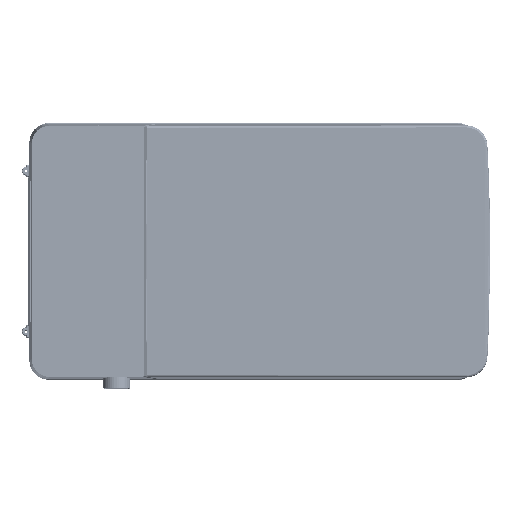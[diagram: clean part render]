
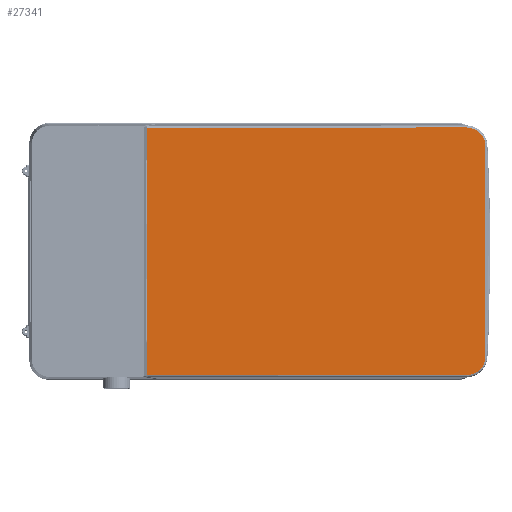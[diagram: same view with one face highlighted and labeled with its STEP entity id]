
A CAD part, top view. The second image highlights one B-rep face of the part: STEP entity #27341.
In plain terms, the highlighted planar face has unit normal (0.015, 0, 1).
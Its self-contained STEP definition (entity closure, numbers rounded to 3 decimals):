
#17551=FACE_OUTER_BOUND('',#53949,.T.);
#27341=ADVANCED_FACE('',(#17551),#33528,.T.);
#33528=PLANE('',#182632);
#38221=B_SPLINE_CURVE_WITH_KNOTS('',3,(#323891,#323892,#323893,#323894,#323895,
#323896,#323897,#323898),.UNSPECIFIED.,.F.,.F.,(4,2,2,4),(0.,0.25,0.5,1.),
 .UNSPECIFIED.);
#38223=B_SPLINE_CURVE_WITH_KNOTS('',3,(#323954,#323955,#323956,#323957),
 .UNSPECIFIED.,.F.,.F.,(4,4),(0.,1.),.UNSPECIFIED.);
#38225=B_SPLINE_CURVE_WITH_KNOTS('',3,(#323995,#323996,#323997,#323998,#323999,
#324000,#324001,#324002),.UNSPECIFIED.,.F.,.F.,(4,2,2,4),(0.,0.25,0.5,1.),
 .UNSPECIFIED.);
#38239=B_SPLINE_CURVE_WITH_KNOTS('',3,(#324283,#324284,#324285,#324286,#324287,
#324288,#324289,#324290,#324291,#324292,#324293,#324294,#324295,#324296),
 .UNSPECIFIED.,.F.,.F.,(4,2,2,2,2,2,4),(0.,0.003,0.005,
0.017,0.068,0.272,1.),.UNSPECIFIED.);
#38242=B_SPLINE_CURVE_WITH_KNOTS('',3,(#324324,#324325,#324326,#324327,#324328,
#324329,#324330,#324331,#324332,#324333,#324334,#324335),.UNSPECIFIED.,.F.,
 .F.,(4,2,2,2,2,4),(0.,0.013,0.064,0.267,
0.995,1.),.UNSPECIFIED.);
#38243=B_SPLINE_CURVE_WITH_KNOTS('',1,(#324337,#324338),.UNSPECIFIED.,.F.,
 .F.,(2,2),(0.,1.),.UNSPECIFIED.);
#53949=EDGE_LOOP('',(#89152,#89153,#89154,#89155,#89156,#89157));
#89152=ORIENTED_EDGE('',*,*,#142105,.T.);
#89153=ORIENTED_EDGE('',*,*,#142106,.T.);
#89154=ORIENTED_EDGE('',*,*,#142102,.T.);
#89155=ORIENTED_EDGE('',*,*,#142025,.T.);
#89156=ORIENTED_EDGE('',*,*,#142022,.T.);
#89157=ORIENTED_EDGE('',*,*,#142019,.T.);
#119796=VERTEX_POINT('',#323863);
#119799=VERTEX_POINT('',#323890);
#119800=VERTEX_POINT('',#323948);
#119802=VERTEX_POINT('',#323971);
#119860=VERTEX_POINT('',#324297);
#119862=VERTEX_POINT('',#324336);
#142019=EDGE_CURVE('',#119796,#119799,#38221,.T.);
#142022=EDGE_CURVE('',#119800,#119796,#38223,.T.);
#142025=EDGE_CURVE('',#119802,#119800,#38225,.T.);
#142102=EDGE_CURVE('',#119860,#119802,#38239,.T.);
#142105=EDGE_CURVE('',#119799,#119862,#38242,.T.);
#142106=EDGE_CURVE('',#119862,#119860,#38243,.T.);
#182632=AXIS2_PLACEMENT_3D('',#324339,#214476,#214477);
#214476=DIRECTION('',(0.015,0.,1.));
#214477=DIRECTION('',(1.,0.,-0.015));
#323863=CARTESIAN_POINT('',(743.749,432.145,441.492));
#323890=CARTESIAN_POINT('',(715.543,458.092,441.902));
#323891=CARTESIAN_POINT('',(743.749,432.145,441.492));
#323892=CARTESIAN_POINT('',(743.554,435.691,441.495));
#323893=CARTESIAN_POINT('',(742.649,439.127,441.508));
#323894=CARTESIAN_POINT('',(739.577,445.468,441.552));
#323895=CARTESIAN_POINT('',(737.417,448.33,441.584));
#323896=CARTESIAN_POINT('',(729.627,455.402,441.697));
#323897=CARTESIAN_POINT('',(722.64,458.097,441.799));
#323898=CARTESIAN_POINT('',(715.543,458.092,441.902));
#323948=CARTESIAN_POINT('',(743.749,118.147,441.492));
#323954=CARTESIAN_POINT('',(743.749,118.147,441.492));
#323955=CARTESIAN_POINT('',(749.483,222.721,441.408));
#323956=CARTESIAN_POINT('',(749.483,327.571,441.408));
#323957=CARTESIAN_POINT('',(743.749,432.145,441.492));
#323971=CARTESIAN_POINT('',(715.544,92.2,441.902));
#323995=CARTESIAN_POINT('',(715.544,92.2,441.902));
#323996=CARTESIAN_POINT('',(719.094,92.197,441.851));
#323997=CARTESIAN_POINT('',(722.567,92.842,441.8));
#323998=CARTESIAN_POINT('',(729.167,95.37,441.704));
#323999=CARTESIAN_POINT('',(732.201,97.23,441.66));
#324000=CARTESIAN_POINT('',(740.026,104.325,441.546));
#324001=CARTESIAN_POINT('',(743.359,111.05,441.497));
#324002=CARTESIAN_POINT('',(743.749,118.147,441.492));
#324283=CARTESIAN_POINT('',(244.499,92.559,448.76));
#324284=CARTESIAN_POINT('',(244.976,92.559,448.753));
#324285=CARTESIAN_POINT('',(245.454,92.558,448.746));
#324286=CARTESIAN_POINT('',(246.169,92.558,448.736));
#324287=CARTESIAN_POINT('',(246.406,92.558,448.732));
#324288=CARTESIAN_POINT('',(248.644,92.556,448.7));
#324289=CARTESIAN_POINT('',(250.643,92.554,448.671));
#324290=CARTESIAN_POINT('',(260.642,92.547,448.525));
#324291=CARTESIAN_POINT('',(268.641,92.541,448.409));
#324292=CARTESIAN_POINT('',(308.637,92.51,447.826));
#324293=CARTESIAN_POINT('',(340.634,92.486,447.361));
#324294=CARTESIAN_POINT('',(486.935,92.374,445.231));
#324295=CARTESIAN_POINT('',(601.239,92.287,443.566));
#324296=CARTESIAN_POINT('',(715.544,92.2,441.902));
#324297=CARTESIAN_POINT('',(244.499,92.559,448.76));
#324324=CARTESIAN_POINT('',(715.543,458.092,441.902));
#324325=CARTESIAN_POINT('',(713.544,458.091,441.931));
#324326=CARTESIAN_POINT('',(711.544,458.089,441.961));
#324327=CARTESIAN_POINT('',(701.545,458.081,442.106));
#324328=CARTESIAN_POINT('',(693.546,458.075,442.223));
#324329=CARTESIAN_POINT('',(653.55,458.045,442.805));
#324330=CARTESIAN_POINT('',(621.553,458.02,443.271));
#324331=CARTESIAN_POINT('',(475.252,457.909,445.401));
#324332=CARTESIAN_POINT('',(360.948,457.822,447.065));
#324333=CARTESIAN_POINT('',(245.929,457.734,448.739));
#324334=CARTESIAN_POINT('',(245.214,457.733,448.75));
#324335=CARTESIAN_POINT('',(244.499,457.733,448.76));
#324336=CARTESIAN_POINT('',(244.499,457.733,448.76));
#324337=CARTESIAN_POINT('',(244.499,457.733,448.76));
#324338=CARTESIAN_POINT('',(244.499,92.559,448.76));
#324339=CARTESIAN_POINT('',(-158.529,-6568.545,454.628));
